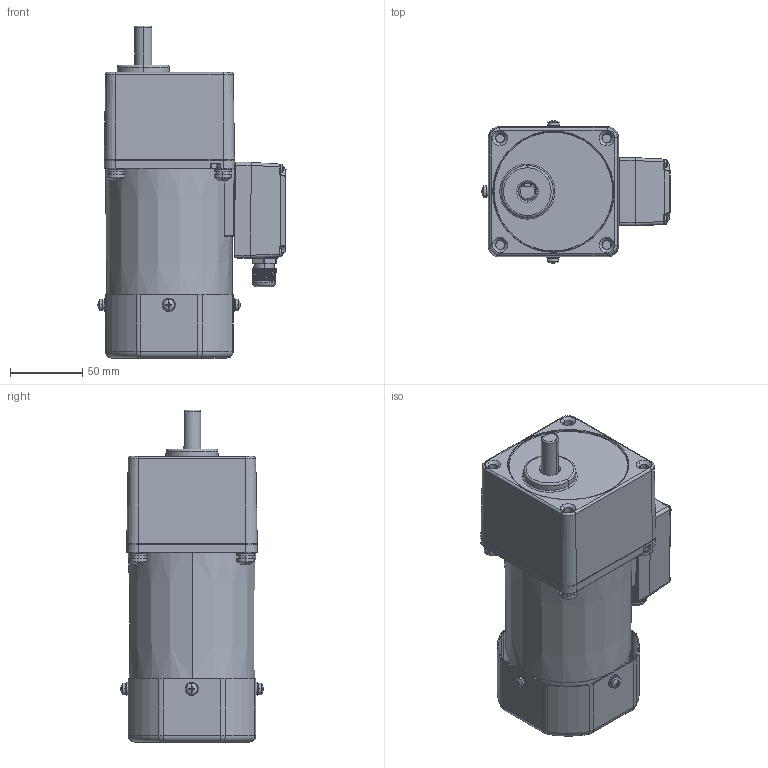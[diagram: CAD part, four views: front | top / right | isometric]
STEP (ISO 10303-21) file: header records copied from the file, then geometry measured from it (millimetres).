
FILE_DESCRIPTION (( 'STEP AP203' ), '1' );
FILE_NAME ('5IK60RGN-CFT(5GN3K-200K).STEP', '2023-08-08T05:47:18', ( 'Windows User' ), ( 'P R C' ), 'SwSTEP 2.0', 'SolidWorks 2019', '' );
FILE_SCHEMA (( 'CONFIG_CONTROL_DESIGN' ));
Length unit declared in the file: millimetre
Products named in the file (18): ^_5IK60RGN-CFT(5GN3K-200K)(2)_5IK60RGN-CFT(5GN3K-200K); ^__5IK60RGN-CFT(5GN3K-200K)(2)_5IK60RGN-CFT(5GN3K-200K); ^70TSJXHG____5IK60RGN-CFT(5GN3K-200K)(2)_5IK60RGN-CFT(5GN3K-200K); 5IK60RGN-CFT(5GN3K-200K)(2)^5IK60RGN-CFT(5GN3K-200K); ^___5IK60RGN-CFT(5GN3K-200K)(2)_5IK60RGN-CFT(5GN3K-200K); 葩璃 (2) ^_70TSJXHG____5IK60RGN-CFT(5GN3K-200K)(2)_5IK60RGN-CFT(5GN3K-200K); ^_70TSJXHG____5IK60RGN-CFT(5GN3K-200K)(2)_5IK60RGN-CFT(5GN3K-200K); 5GN3K__200K^5IK60RGN-CFT(5GN3K-200K)(2)_5IK60RGN-CFT(5GN3K-200K); 70TSJXHG^___5IK60RGN-CFT(5GN3K-200K)(2)_5IK60RGN-CFT(5GN3K-200K); 5IK60RGN-CFT(5GN3K-200K); ^_____5IK60RGN-CFT(5GN3K-200K)(2)_5IK60RGN-CFT(5GN3K-200K); ^____5IK60RGN-CFT(5GN3K-200K)(2)_5IK60RGN-CFT(5GN3K-200K); ^5IK60RGN-CFT(5GN3K-200K)(2)_5IK60RGN-CFT(5GN3K-200K); 葩璃 (2) ^_____5IK60RGN-CFT(5GN3K-200K)(2)_5IK60RGN-CFT(5GN3K-200K); 葩璃 (3) ^_____5IK60RGN-CFT(5GN3K-200K)(2)_5IK60RGN-CFT(5GN3K-200K); 葩璃 (3) ^_70TSJXHG____5IK60RGN-CFT(5GN3K-200K)(2)_5IK60RGN-CFT(5GN3K-200K)
Assembly tree (20 placements, depth 8):
  5IK60RGN-CFT(5GN3K-200K)
    5IK60RGN-CFT(5GN3K-200K)(2)^5IK60RGN-CFT(5GN3K-200K)
      ^5IK60RGN-CFT(5GN3K-200K)(2)_5IK60RGN-CFT(5GN3K-200K)
        ^_5IK60RGN-CFT(5GN3K-200K)(2)_5IK60RGN-CFT(5GN3K-200K)
          ^__5IK60RGN-CFT(5GN3K-200K)(2)_5IK60RGN-CFT(5GN3K-200K)
            70TSJXHG^___5IK60RGN-CFT(5GN3K-200K)(2)_5IK60RGN-CFT(5GN3K-200K)
              ^70TSJXHG____5IK60RGN-CFT(5GN3K-200K)(2)_5IK60RGN-CFT(5GN3K-200K)
                ^_70TSJXHG____5IK60RGN-CFT(5GN3K-200K)(2)_5IK60RGN-CFT(5GN3K-200K)
                葩璃 (2) ^_70TSJXHG____5IK60RGN-CFT(5GN3K-200K)(2)_5IK60RGN-CFT(5GN3K-200K)
                葩璃 (3) ^_70TSJXHG____5IK60RGN-CFT(5GN3K-200K)(2)_5IK60RGN-CFT(5GN3K-200K)  x4
            ^___5IK60RGN-CFT(5GN3K-200K)(2)_5IK60RGN-CFT(5GN3K-200K)
              ^____5IK60RGN-CFT(5GN3K-200K)(2)_5IK60RGN-CFT(5GN3K-200K)
                ^_____5IK60RGN-CFT(5GN3K-200K)(2)_5IK60RGN-CFT(5GN3K-200K)
                葩璃 (2) ^_____5IK60RGN-CFT(5GN3K-200K)(2)_5IK60RGN-CFT(5GN3K-200K)
                葩璃 (3) ^_____5IK60RGN-CFT(5GN3K-200K)(2)_5IK60RGN-CFT(5GN3K-200K)
            ^___5IK60RGN-CFT(5GN3K-200K)(2)_5IK60RGN-CFT(5GN3K-200K)
          ^__5IK60RGN-CFT(5GN3K-200K)(2)_5IK60RGN-CFT(5GN3K-200K)
      5GN3K__200K^5IK60RGN-CFT(5GN3K-200K)(2)_5IK60RGN-CFT(5GN3K-200K)
Bounding box: 129.69 x 98.11 x 229 mm (x, y, z)
Volume: 1235700.3 mm3; surface area: 174766.6 mm2
Topology: 54 solids, 54 shells, 2277 faces, 5859 edges, 3714 vertices
Faces by surface type: cylinder 869, plane 654, cone 507, torus 109, sphere 104, bspline 34
Entity records: 65549 total; most frequent: CARTESIAN_POINT 16550, DIRECTION 10547, ORIENTED_EDGE 9646, EDGE_CURVE 4823, AXIS2_PLACEMENT_3D 4328, VERTEX_POINT 3098, CIRCLE 2441, EDGE_LOOP 2035
